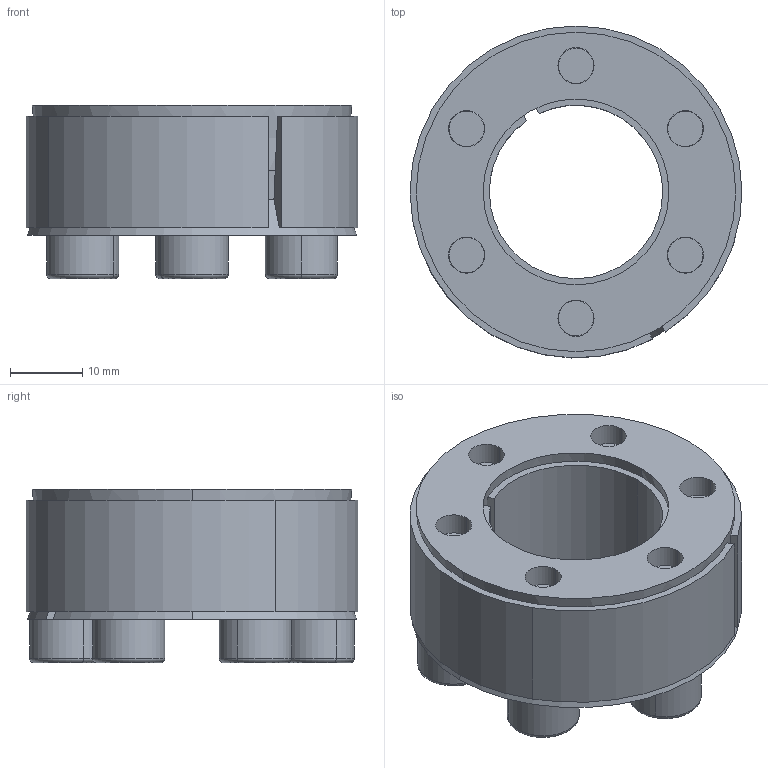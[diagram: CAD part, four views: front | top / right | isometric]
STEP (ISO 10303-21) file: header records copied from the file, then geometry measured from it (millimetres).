
FILE_DESCRIPTION (( 'STEP AP214' ), '1' );
FILE_NAME ('CONEX-L-24x46.step', '2013-04-06T13:22:24', ( 'Pc' ), ( '' ), 'SwSTEP 2.0', 'SolidWorks 2013', '' );
FILE_SCHEMA (( 'AUTOMOTIVE_DESIGN' ));
Length unit declared in the file: millimetre
Products named in the file (1): CONEX-L-24x46
Bounding box: 45.98 x 45.97 x 24.01 mm (x, y, z)
Volume: 20611.2 mm3; surface area: 18346 mm2
Topology: 9 solids, 9 shells, 223 faces, 511 edges, 306 vertices
Faces by surface type: plane 101, cylinder 58, cone 40, torus 24
Entity records: 8830 total; most frequent: DIRECTION 1180, CARTESIAN_POINT 1062, ORIENTED_EDGE 998, EDGE_CURVE 499, AXIS2_PLACEMENT_3D 465, VERTEX_POINT 306, EDGE_LOOP 265, VECTOR 250
